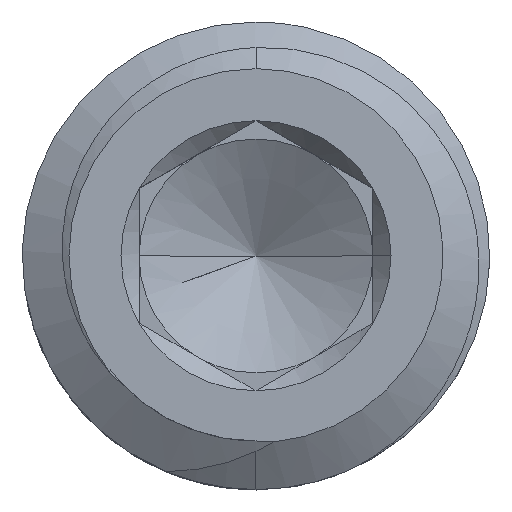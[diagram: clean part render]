
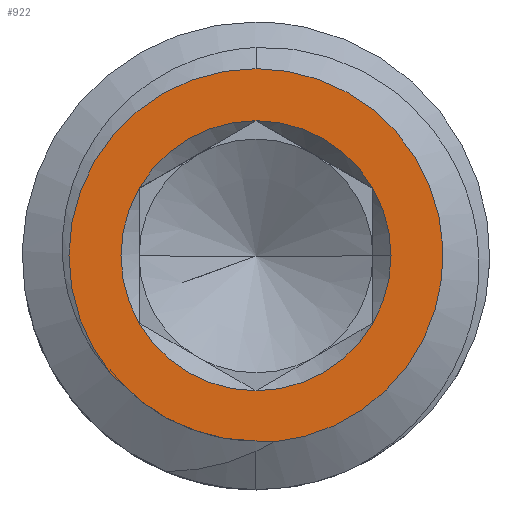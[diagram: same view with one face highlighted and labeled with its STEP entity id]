
A CAD part, top view. The second image highlights one B-rep face of the part: STEP entity #922.
In plain terms, the highlighted planar face has unit normal (0, 0, 1).
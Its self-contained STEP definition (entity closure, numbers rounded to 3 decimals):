
#15 = PLANE ( 'NONE',  #228 ) ;
#55 = AXIS2_PLACEMENT_3D ( 'NONE', #1680, #1224, #423 ) ;
#81 = CARTESIAN_POINT ( 'NONE',  ( -1.448, -1.361, 1.588 ) ) ;
#104 = VERTEX_POINT ( 'NONE', #1121 ) ;
#118 = CIRCLE ( 'NONE', #1284, 1.443 ) ;
#123 = AXIS2_PLACEMENT_3D ( 'NONE', #568, #1361, #1654 ) ;
#157 = AXIS2_PLACEMENT_3D ( 'NONE', #1008, #1023, #1998 ) ;
#211 = CARTESIAN_POINT ( 'NONE',  ( 0.184, -1.992, 1.588 ) ) ;
#228 = AXIS2_PLACEMENT_3D ( 'NONE', #339, #1613, #1786 ) ;
#235 = EDGE_CURVE ( 'NONE', #655, #733, #1033, .T. ) ;
#256 = ORIENTED_EDGE ( 'NONE', *, *, #855, .T. ) ;
#280 = CARTESIAN_POINT ( 'NONE',  ( 1.443, 0., 1.588 ) ) ;
#314 = EDGE_CURVE ( 'NONE', #2060, #1568, #828, .T. ) ;
#320 = CARTESIAN_POINT ( 'NONE',  ( -1.25, 0.722, 1.588 ) ) ;
#323 = EDGE_CURVE ( 'NONE', #1328, #1469, #827, .T. ) ;
#339 = CARTESIAN_POINT ( 'NONE',  ( 0., 0., 1.588 ) ) ;
#349 = CARTESIAN_POINT ( 'NONE',  ( 0., 2., 1.588 ) ) ;
#355 = ORIENTED_EDGE ( 'NONE', *, *, #1237, .T. ) ;
#368 = DIRECTION ( 'NONE',  ( 0., -1., 0. ) ) ;
#381 = AXIS2_PLACEMENT_3D ( 'NONE', #1828, #1332, #555 ) ;
#392 = CARTESIAN_POINT ( 'NONE',  ( 0., 0., 1.588 ) ) ;
#396 = CARTESIAN_POINT ( 'NONE',  ( 0., 0., 1.588 ) ) ;
#423 = DIRECTION ( 'NONE',  ( 1., 0., 0. ) ) ;
#427 = EDGE_CURVE ( 'NONE', #683, #1619, #905, .T. ) ;
#448 = ORIENTED_EDGE ( 'NONE', *, *, #235, .F. ) ;
#463 = CARTESIAN_POINT ( 'NONE',  ( -1.25, -0.722, 1.588 ) ) ;
#469 = AXIS2_PLACEMENT_3D ( 'NONE', #392, #559, #715 ) ;
#478 = ORIENTED_EDGE ( 'NONE', *, *, #1182, .F. ) ;
#536 = DIRECTION ( 'NONE',  ( 0., 0., 1. ) ) ;
#542 = EDGE_CURVE ( 'NONE', #1619, #1548, #600, .T. ) ;
#547 = DIRECTION ( 'NONE',  ( 1., 0., 0. ) ) ;
#551 = CARTESIAN_POINT ( 'NONE',  ( 0.061, -1.987, 1.588 ) ) ;
#555 = DIRECTION ( 'NONE',  ( 1., 0., 0. ) ) ;
#558 = ORIENTED_EDGE ( 'NONE', *, *, #323, .F. ) ;
#559 = DIRECTION ( 'NONE',  ( 0., 0., 1. ) ) ;
#562 = CARTESIAN_POINT ( 'NONE',  ( -1.308, -1.493, 1.588 ) ) ;
#568 = CARTESIAN_POINT ( 'NONE',  ( 0., 0., 1.588 ) ) ;
#583 = EDGE_LOOP ( 'NONE', ( #910, #831, #1252, #1374, #448, #478, #978 ) ) ;
#600 = CIRCLE ( 'NONE', #55, 1.443 ) ;
#628 = CARTESIAN_POINT ( 'NONE',  ( 1.25, 0.722, 1.588 ) ) ;
#645 = CIRCLE ( 'NONE', #123, 1.443 ) ;
#655 = VERTEX_POINT ( 'NONE', #1564 ) ;
#658 = DIRECTION ( 'NONE',  ( 1., 0., 0. ) ) ;
#683 = VERTEX_POINT ( 'NONE', #280 ) ;
#695 = CARTESIAN_POINT ( 'NONE',  ( 0., 0., 1.588 ) ) ;
#705 = CARTESIAN_POINT ( 'NONE',  ( 0., -1.98, 1.588 ) ) ;
#715 = DIRECTION ( 'NONE',  ( 1., 0., 0. ) ) ;
#725 = CIRCLE ( 'NONE', #868, 2. ) ;
#733 = VERTEX_POINT ( 'NONE', #1777 ) ;
#746 = CIRCLE ( 'NONE', #1955, 2. ) ;
#827 = B_SPLINE_CURVE_WITH_KNOTS ( 'NONE', 3,
 ( #884, #1170, #1837, #1503, #1492, #1988, #1344, #2003, #562, #1041 ),
 .UNSPECIFIED., .F., .F.,
 ( 4, 2, 2, 2, 4 ),
 ( 0., 0., 0.001, 0.001, 0.002 ),
 .UNSPECIFIED. ) ;
#828 = CIRCLE ( 'NONE', #1028, 1.443 ) ;
#831 = ORIENTED_EDGE ( 'NONE', *, *, #542, .F. ) ;
#843 = DIRECTION ( 'NONE',  ( 0., 0., 1. ) ) ;
#855 = EDGE_CURVE ( 'NONE', #955, #104, #746, .T. ) ;
#868 = AXIS2_PLACEMENT_3D ( 'NONE', #1695, #1866, #912 ) ;
#884 = CARTESIAN_POINT ( 'NONE',  ( 0., -1.98, 1.588 ) ) ;
#905 = CIRCLE ( 'NONE', #381, 1.443 ) ;
#910 = ORIENTED_EDGE ( 'NONE', *, *, #962, .F. ) ;
#912 = DIRECTION ( 'NONE',  ( 0., -1., 0. ) ) ;
#922 = ADVANCED_FACE ( 'NONE', ( #1612, #2009 ), #15, .F. ) ;
#955 = VERTEX_POINT ( 'NONE', #349 ) ;
#960 = CARTESIAN_POINT ( 'NONE',  ( 0., 1.443, 1.588 ) ) ;
#962 = EDGE_CURVE ( 'NONE', #1548, #2060, #645, .T. ) ;
#978 = ORIENTED_EDGE ( 'NONE', *, *, #314, .F. ) ;
#987 = CARTESIAN_POINT ( 'NONE',  ( 0., 0., 1.588 ) ) ;
#1008 = CARTESIAN_POINT ( 'NONE',  ( 0., 0., 1.588 ) ) ;
#1023 = DIRECTION ( 'NONE',  ( 0., 0., 1. ) ) ;
#1028 = AXIS2_PLACEMENT_3D ( 'NONE', #396, #536, #547 ) ;
#1033 = CIRCLE ( 'NONE', #157, 1.443 ) ;
#1041 = CARTESIAN_POINT ( 'NONE',  ( -1.4, -1.4, 1.588 ) ) ;
#1048 = CARTESIAN_POINT ( 'NONE',  ( 0.123, -1.991, 1.588 ) ) ;
#1055 = CIRCLE ( 'NONE', #469, 1.443 ) ;
#1077 = EDGE_CURVE ( 'NONE', #1396, #1328, #1403, .T. ) ;
#1121 = CARTESIAN_POINT ( 'NONE',  ( -1.538, -1.278, 1.588 ) ) ;
#1158 = DIRECTION ( 'NONE',  ( 0., 0., 1. ) ) ;
#1170 = CARTESIAN_POINT ( 'NONE',  ( -0.131, -1.98, 1.588 ) ) ;
#1182 = EDGE_CURVE ( 'NONE', #1568, #655, #1055, .T. ) ;
#1198 = CARTESIAN_POINT ( 'NONE',  ( 0., -1.98, 1.588 ) ) ;
#1224 = DIRECTION ( 'NONE',  ( 0., 0., 1. ) ) ;
#1237 = EDGE_CURVE ( 'NONE', #1396, #955, #725, .T. ) ;
#1249 = EDGE_LOOP ( 'NONE', ( #1995, #355, #256, #1910, #558 ) ) ;
#1252 = ORIENTED_EDGE ( 'NONE', *, *, #427, .F. ) ;
#1280 = EDGE_CURVE ( 'NONE', #1469, #104, #1916, .T. ) ;
#1284 = AXIS2_PLACEMENT_3D ( 'NONE', #987, #1158, #658 ) ;
#1297 = CARTESIAN_POINT ( 'NONE',  ( -1.4, -1.4, 1.588 ) ) ;
#1328 = VERTEX_POINT ( 'NONE', #705 ) ;
#1332 = DIRECTION ( 'NONE',  ( 0., 0., 1. ) ) ;
#1344 = CARTESIAN_POINT ( 'NONE',  ( -0.994, -1.718, 1.588 ) ) ;
#1361 = DIRECTION ( 'NONE',  ( 0., 0., 1. ) ) ;
#1374 = ORIENTED_EDGE ( 'NONE', *, *, #1632, .F. ) ;
#1396 = VERTEX_POINT ( 'NONE', #1707 ) ;
#1403 = B_SPLINE_CURVE_WITH_KNOTS ( 'NONE', 3,
 ( #211, #1048, #551, #1198 ),
 .UNSPECIFIED., .F., .F.,
 ( 4, 4 ),
 ( 0.002, 0.002 ),
 .UNSPECIFIED. ) ;
#1469 = VERTEX_POINT ( 'NONE', #1297 ) ;
#1492 = CARTESIAN_POINT ( 'NONE',  ( -0.638, -1.879, 1.588 ) ) ;
#1503 = CARTESIAN_POINT ( 'NONE',  ( -0.515, -1.917, 1.588 ) ) ;
#1509 = CARTESIAN_POINT ( 'NONE',  ( -1.538, -1.278, 1.588 ) ) ;
#1548 = VERTEX_POINT ( 'NONE', #960 ) ;
#1564 = CARTESIAN_POINT ( 'NONE',  ( 0., -1.443, 1.588 ) ) ;
#1568 = VERTEX_POINT ( 'NONE', #463 ) ;
#1612 = FACE_BOUND ( 'NONE', #583, .T. ) ;
#1613 = DIRECTION ( 'NONE',  ( 0., 0., -1. ) ) ;
#1619 = VERTEX_POINT ( 'NONE', #628 ) ;
#1632 = EDGE_CURVE ( 'NONE', #733, #683, #118, .T. ) ;
#1654 = DIRECTION ( 'NONE',  ( 1., 0., 0. ) ) ;
#1680 = CARTESIAN_POINT ( 'NONE',  ( 0., 0., 1.588 ) ) ;
#1695 = CARTESIAN_POINT ( 'NONE',  ( 0., 0., 1.588 ) ) ;
#1707 = CARTESIAN_POINT ( 'NONE',  ( 0.184, -1.992, 1.588 ) ) ;
#1777 = CARTESIAN_POINT ( 'NONE',  ( 1.25, -0.722, 1.588 ) ) ;
#1786 = DIRECTION ( 'NONE',  ( 0., 1., 0. ) ) ;
#1817 = CARTESIAN_POINT ( 'NONE',  ( -1.4, -1.4, 1.588 ) ) ;
#1827 = CARTESIAN_POINT ( 'NONE',  ( -1.494, -1.321, 1.588 ) ) ;
#1828 = CARTESIAN_POINT ( 'NONE',  ( 0., 0., 1.588 ) ) ;
#1837 = CARTESIAN_POINT ( 'NONE',  ( -0.262, -1.967, 1.588 ) ) ;
#1866 = DIRECTION ( 'NONE',  ( 0., 0., 1. ) ) ;
#1910 = ORIENTED_EDGE ( 'NONE', *, *, #1280, .F. ) ;
#1916 = B_SPLINE_CURVE_WITH_KNOTS ( 'NONE', 3,
 ( #1817, #81, #1827, #1509 ),
 .UNSPECIFIED., .F., .F.,
 ( 4, 4 ),
 ( 0., 0. ),
 .UNSPECIFIED. ) ;
#1955 = AXIS2_PLACEMENT_3D ( 'NONE', #695, #843, #368 ) ;
#1988 = CARTESIAN_POINT ( 'NONE',  ( -0.878, -1.78, 1.588 ) ) ;
#1995 = ORIENTED_EDGE ( 'NONE', *, *, #1077, .F. ) ;
#1998 = DIRECTION ( 'NONE',  ( 1., 0., 0. ) ) ;
#2003 = CARTESIAN_POINT ( 'NONE',  ( -1.208, -1.575, 1.588 ) ) ;
#2009 = FACE_OUTER_BOUND ( 'NONE', #1249, .T. ) ;
#2060 = VERTEX_POINT ( 'NONE', #320 ) ;
